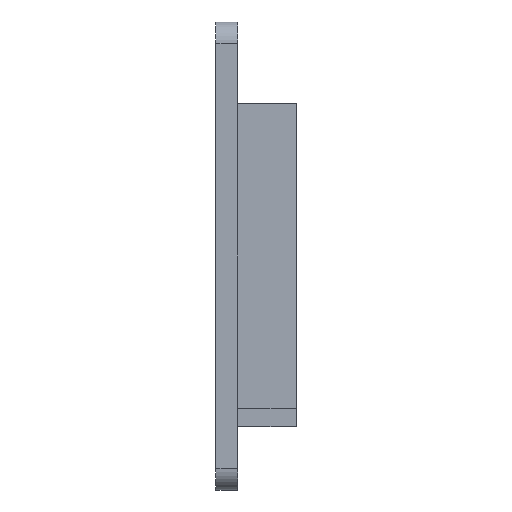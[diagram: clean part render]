
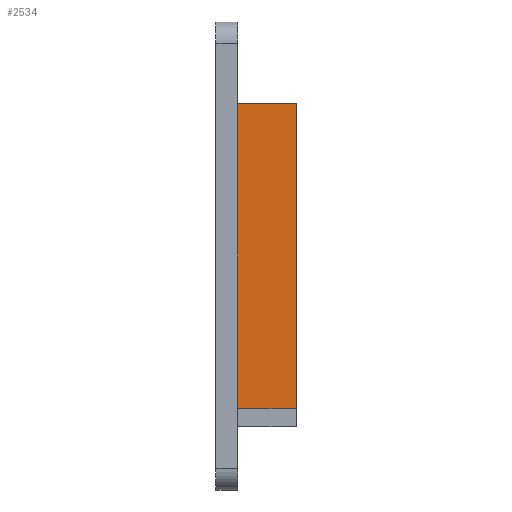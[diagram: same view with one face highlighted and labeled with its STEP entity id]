
A CAD part, left-side view. The second image highlights one B-rep face of the part: STEP entity #2534.
In plain terms, the highlighted planar face has unit normal (-1, 0, 0).
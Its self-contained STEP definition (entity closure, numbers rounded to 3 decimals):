
#44 = PLANE('',#45);
#45 = AXIS2_PLACEMENT_3D('',#46,#47,#48);
#46 = CARTESIAN_POINT('',(31.,-1.,43.));
#47 = DIRECTION('',(0.,1.,0.));
#48 = DIRECTION('',(0.,-0.,1.));
#511 = VERTEX_POINT('',#512);
#512 = CARTESIAN_POINT('',(13.4,-1.,63.85));
#525 = PLANE('',#526);
#526 = AXIS2_PLACEMENT_3D('',#527,#528,#529);
#527 = CARTESIAN_POINT('',(13.4,-9.,63.85));
#528 = DIRECTION('',(0.,0.,1.));
#529 = DIRECTION('',(1.,0.,0.));
#536 = EDGE_CURVE('',#511,#537,#539,.T.);
#537 = VERTEX_POINT('',#538);
#538 = CARTESIAN_POINT('',(13.4,-1.,22.15));
#539 = SURFACE_CURVE('',#540,(#544,#550),.PCURVE_S1.);
#540 = LINE('',#541,#542);
#541 = CARTESIAN_POINT('',(13.4,-1.,32.575));
#542 = VECTOR('',#543,1.);
#543 = DIRECTION('',(0.,0.,-1.));
#544 = PCURVE('',#44,#545);
#545 = DEFINITIONAL_REPRESENTATION('',(#546),#549);
#546 = B_SPLINE_CURVE_WITH_KNOTS('',1,(#547,#548),.UNSPECIFIED.,.F.,.F.,
  (2,2),(-31.275,10.425),.PIECEWISE_BEZIER_KNOTS.);
#547 = CARTESIAN_POINT('',(20.85,-17.6));
#548 = CARTESIAN_POINT('',(-20.85,-17.6));
#549 = ( GEOMETRIC_REPRESENTATION_CONTEXT(2) 
PARAMETRIC_REPRESENTATION_CONTEXT() REPRESENTATION_CONTEXT('2D SPACE',''
  ) );
#550 = PCURVE('',#551,#556);
#551 = PLANE('',#552);
#552 = AXIS2_PLACEMENT_3D('',#553,#554,#555);
#553 = CARTESIAN_POINT('',(13.4,-9.,22.15));
#554 = DIRECTION('',(1.,0.,0.));
#555 = DIRECTION('',(0.,0.,1.));
#556 = DEFINITIONAL_REPRESENTATION('',(#557),#560);
#557 = B_SPLINE_CURVE_WITH_KNOTS('',1,(#558,#559),.UNSPECIFIED.,.F.,.F.,
  (2,2),(-31.275,10.425),.PIECEWISE_BEZIER_KNOTS.);
#558 = CARTESIAN_POINT('',(41.7,-8.));
#559 = CARTESIAN_POINT('',(0.,-8.));
#560 = ( GEOMETRIC_REPRESENTATION_CONTEXT(2) 
PARAMETRIC_REPRESENTATION_CONTEXT() REPRESENTATION_CONTEXT('2D SPACE',''
  ) );
#577 = PLANE('',#578);
#578 = AXIS2_PLACEMENT_3D('',#579,#580,#581);
#579 = CARTESIAN_POINT('',(13.4,-9.,22.15));
#580 = DIRECTION('',(0.,0.,1.));
#581 = DIRECTION('',(1.,0.,0.));
#1849 = PLANE('',#1850);
#1850 = AXIS2_PLACEMENT_3D('',#1851,#1852,#1853);
#1851 = CARTESIAN_POINT('',(43.4,-9.,22.15));
#1852 = DIRECTION('',(0.,1.,0.));
#1853 = DIRECTION('',(0.,0.,1.));
#2491 = EDGE_CURVE('',#2492,#537,#2494,.T.);
#2492 = VERTEX_POINT('',#2493);
#2493 = CARTESIAN_POINT('',(13.4,-9.,22.15));
#2494 = SURFACE_CURVE('',#2495,(#2499,#2506),.PCURVE_S1.);
#2495 = LINE('',#2496,#2497);
#2496 = CARTESIAN_POINT('',(13.4,-9.,22.15));
#2497 = VECTOR('',#2498,1.);
#2498 = DIRECTION('',(0.,1.,0.));
#2499 = PCURVE('',#577,#2500);
#2500 = DEFINITIONAL_REPRESENTATION('',(#2501),#2505);
#2501 = LINE('',#2502,#2503);
#2502 = CARTESIAN_POINT('',(0.,0.));
#2503 = VECTOR('',#2504,1.);
#2504 = DIRECTION('',(0.,1.));
#2505 = ( GEOMETRIC_REPRESENTATION_CONTEXT(2) 
PARAMETRIC_REPRESENTATION_CONTEXT() REPRESENTATION_CONTEXT('2D SPACE',''
  ) );
#2506 = PCURVE('',#551,#2507);
#2507 = DEFINITIONAL_REPRESENTATION('',(#2508),#2512);
#2508 = LINE('',#2509,#2510);
#2509 = CARTESIAN_POINT('',(0.,0.));
#2510 = VECTOR('',#2511,1.);
#2511 = DIRECTION('',(0.,-1.));
#2512 = ( GEOMETRIC_REPRESENTATION_CONTEXT(2) 
PARAMETRIC_REPRESENTATION_CONTEXT() REPRESENTATION_CONTEXT('2D SPACE',''
  ) );
#2534 = ADVANCED_FACE('',(#2535),#551,.F.);
#2535 = FACE_BOUND('',#2536,.F.);
#2536 = EDGE_LOOP('',(#2537,#2560,#2581,#2582));
#2537 = ORIENTED_EDGE('',*,*,#2538,.F.);
#2538 = EDGE_CURVE('',#2539,#511,#2541,.T.);
#2539 = VERTEX_POINT('',#2540);
#2540 = CARTESIAN_POINT('',(13.4,-9.,63.85));
#2541 = SURFACE_CURVE('',#2542,(#2546,#2553),.PCURVE_S1.);
#2542 = LINE('',#2543,#2544);
#2543 = CARTESIAN_POINT('',(13.4,-9.,63.85));
#2544 = VECTOR('',#2545,1.);
#2545 = DIRECTION('',(0.,1.,0.));
#2546 = PCURVE('',#551,#2547);
#2547 = DEFINITIONAL_REPRESENTATION('',(#2548),#2552);
#2548 = LINE('',#2549,#2550);
#2549 = CARTESIAN_POINT('',(41.7,0.));
#2550 = VECTOR('',#2551,1.);
#2551 = DIRECTION('',(0.,-1.));
#2552 = ( GEOMETRIC_REPRESENTATION_CONTEXT(2) 
PARAMETRIC_REPRESENTATION_CONTEXT() REPRESENTATION_CONTEXT('2D SPACE',''
  ) );
#2553 = PCURVE('',#525,#2554);
#2554 = DEFINITIONAL_REPRESENTATION('',(#2555),#2559);
#2555 = LINE('',#2556,#2557);
#2556 = CARTESIAN_POINT('',(0.,0.));
#2557 = VECTOR('',#2558,1.);
#2558 = DIRECTION('',(0.,1.));
#2559 = ( GEOMETRIC_REPRESENTATION_CONTEXT(2) 
PARAMETRIC_REPRESENTATION_CONTEXT() REPRESENTATION_CONTEXT('2D SPACE',''
  ) );
#2560 = ORIENTED_EDGE('',*,*,#2561,.F.);
#2561 = EDGE_CURVE('',#2492,#2539,#2562,.T.);
#2562 = SURFACE_CURVE('',#2563,(#2567,#2574),.PCURVE_S1.);
#2563 = LINE('',#2564,#2565);
#2564 = CARTESIAN_POINT('',(13.4,-9.,22.15));
#2565 = VECTOR('',#2566,1.);
#2566 = DIRECTION('',(0.,0.,1.));
#2567 = PCURVE('',#551,#2568);
#2568 = DEFINITIONAL_REPRESENTATION('',(#2569),#2573);
#2569 = LINE('',#2570,#2571);
#2570 = CARTESIAN_POINT('',(0.,0.));
#2571 = VECTOR('',#2572,1.);
#2572 = DIRECTION('',(1.,0.));
#2573 = ( GEOMETRIC_REPRESENTATION_CONTEXT(2) 
PARAMETRIC_REPRESENTATION_CONTEXT() REPRESENTATION_CONTEXT('2D SPACE',''
  ) );
#2574 = PCURVE('',#1849,#2575);
#2575 = DEFINITIONAL_REPRESENTATION('',(#2576),#2580);
#2576 = LINE('',#2577,#2578);
#2577 = CARTESIAN_POINT('',(0.,-30.));
#2578 = VECTOR('',#2579,1.);
#2579 = DIRECTION('',(1.,0.));
#2580 = ( GEOMETRIC_REPRESENTATION_CONTEXT(2) 
PARAMETRIC_REPRESENTATION_CONTEXT() REPRESENTATION_CONTEXT('2D SPACE',''
  ) );
#2581 = ORIENTED_EDGE('',*,*,#2491,.T.);
#2582 = ORIENTED_EDGE('',*,*,#536,.F.);
